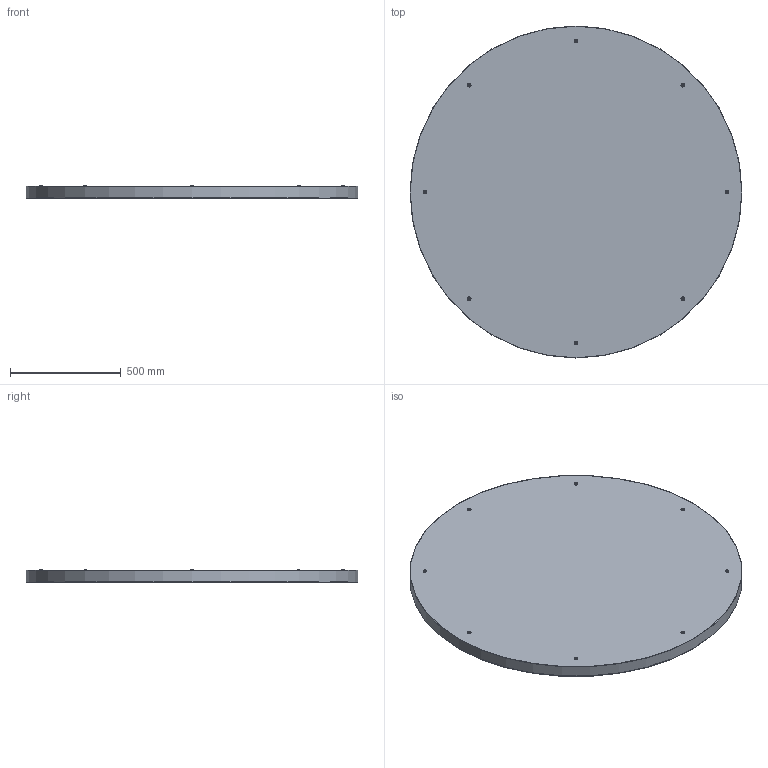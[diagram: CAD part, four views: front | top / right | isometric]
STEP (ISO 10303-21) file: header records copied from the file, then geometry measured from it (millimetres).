
FILE_DESCRIPTION (( 'STEP AP214' ), '1' );
FILE_NAME ('LONDON-P3760772.STEP', '2026-01-14T10:51:10', ( '' ), ( '' ), 'SwSTEP 2.0', 'SolidWorks 2025', '' );
FILE_SCHEMA (( 'AUTOMOTIVE_DESIGN' ));
Length unit declared in the file: millimetre
Products named in the file (1): LONDON-P3760772
Bounding box: 1500 x 1500 x 58 mm (x, y, z)
Volume: 3791387.2 mm3; surface area: 7592278.9 mm2
Topology: 2 solids, 2 shells, 84 faces, 188 edges, 126 vertices
Faces by surface type: torus 34, plane 22, cone 16, cylinder 12
Full cylindrical faces by diameter (mm): 5 x8, 1490 x1, 1494 x1, 1498 x1, 1500 x1
Entity records: 1808 total; most frequent: DIRECTION 350, CARTESIAN_POINT 265, EDGE_LOOP 180, ORIENTED_EDGE 180, AXIS2_PLACEMENT_3D 175, FACE_OUTER_BOUND 130, VERTEX_POINT 90, EDGE_CURVE 90
